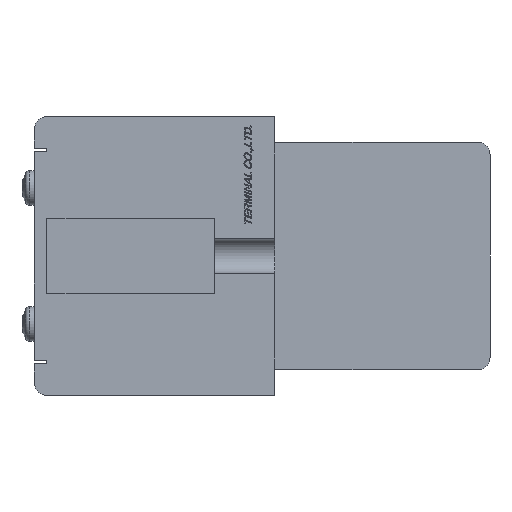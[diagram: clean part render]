
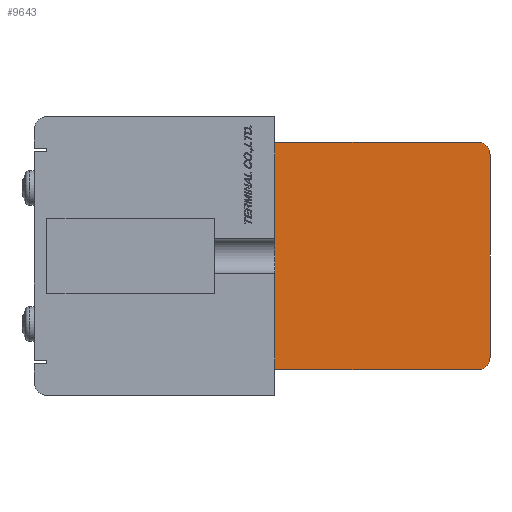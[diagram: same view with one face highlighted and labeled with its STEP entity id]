
A CAD part, left-side view. The second image highlights one B-rep face of the part: STEP entity #9643.
In plain terms, the highlighted planar face has unit normal (-1, 0, 0).
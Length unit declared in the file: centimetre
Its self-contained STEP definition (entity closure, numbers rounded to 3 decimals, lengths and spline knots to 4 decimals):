
#630=PLANE('',#10315);
#874=CIRCLE('',#10310,0.2);
#875=CIRCLE('',#10313,0.2);
#1800=VERTEX_POINT('',#15562);
#1801=VERTEX_POINT('',#15564);
#1808=VERTEX_POINT('',#15596);
#1809=VERTEX_POINT('',#15600);
#1810=VERTEX_POINT('',#15604);
#1811=VERTEX_POINT('',#15608);
#2757=VECTOR('',#12169,1.);
#2770=VECTOR('',#12197,1.);
#2773=VECTOR('',#12205,1.);
#2776=VECTOR('',#12213,1.);
#3703=LINE('',#15565,#2757);
#3716=LINE('',#15595,#2770);
#3719=LINE('',#15603,#2773);
#3722=LINE('',#15611,#2776);
#5041=EDGE_CURVE('',#1801,#1800,#3703,.T.);
#5056=EDGE_CURVE('',#1800,#1808,#3716,.T.);
#5058=EDGE_CURVE('',#1808,#1809,#874,.T.);
#5060=EDGE_CURVE('',#1809,#1810,#3719,.T.);
#5062=EDGE_CURVE('',#1810,#1811,#875,.T.);
#5064=EDGE_CURVE('',#1811,#1801,#3722,.T.);
#7744=ORIENTED_EDGE('',*,*,#5041,.F.);
#7745=ORIENTED_EDGE('',*,*,#5064,.F.);
#7746=ORIENTED_EDGE('',*,*,#5062,.F.);
#7747=ORIENTED_EDGE('',*,*,#5060,.F.);
#7748=ORIENTED_EDGE('',*,*,#5058,.F.);
#7749=ORIENTED_EDGE('',*,*,#5056,.F.);
#8492=EDGE_LOOP('',(#7744,#7745,#7746,#7747,#7748,#7749));
#9105=FACE_BOUND('',#8492,.T.);
#9643=ADVANCED_FACE('',(#9105),#630,.F.);
#10310=AXIS2_PLACEMENT_3D('',#15599,#12201,#12202);
#10313=AXIS2_PLACEMENT_3D('',#15607,#12209,#12210);
#10315=AXIS2_PLACEMENT_3D('',#15612,#12214,$);
#12169=DIRECTION('',(0.,0.,1.));
#12197=DIRECTION('',(0.,-1.,0.));
#12201=DIRECTION('',(1.,0.,0.));
#12202=DIRECTION('',(0.,0.,-0.2));
#12205=DIRECTION('',(0.,0.,-1.));
#12209=DIRECTION('',(1.,0.,0.));
#12210=DIRECTION('',(0.,0.,-0.2));
#12213=DIRECTION('',(0.,1.,0.));
#12214=DIRECTION('',(1.,0.,0.));
#15562=CARTESIAN_POINT('',(-0.4,0.,1.8));
#15564=CARTESIAN_POINT('',(-0.4,0.,-1.8));
#15565=CARTESIAN_POINT('',(-0.4,0.,1.8));
#15595=CARTESIAN_POINT('',(-0.4,-3.2,1.8));
#15596=CARTESIAN_POINT('',(-0.4,-3.2,1.8));
#15599=CARTESIAN_POINT('',(-0.4,-3.2,1.6));
#15600=CARTESIAN_POINT('',(-0.4,-3.4,1.6));
#15603=CARTESIAN_POINT('',(-0.4,-3.4,-1.6));
#15604=CARTESIAN_POINT('',(-0.4,-3.4,-1.6));
#15607=CARTESIAN_POINT('',(-0.4,-3.2,-1.6));
#15608=CARTESIAN_POINT('',(-0.4,-3.2,-1.8));
#15611=CARTESIAN_POINT('',(-0.4,0.,-1.8));
#15612=CARTESIAN_POINT('',(-0.4,-1.6784,0.));
